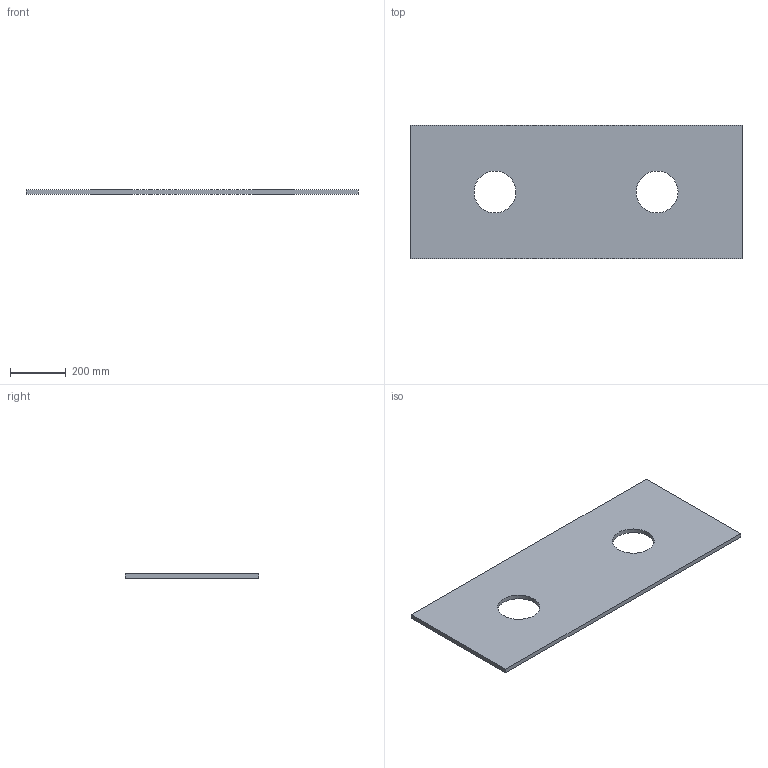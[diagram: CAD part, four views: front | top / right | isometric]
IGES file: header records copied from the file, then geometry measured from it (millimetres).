
Global section: file name: 510028; native system: Autodesk Inventor 2023; preprocessor: unknown; author: JANAN; date: 20241002.131819; units: millimetre
Bounding box: 1188 x 477.5 x 16 mm (x, y, z)
Volume: 8510053.1 mm3; surface area: 1132249.8 mm2
Topology: 1 solids, 1 shells, 8 faces, 18 edges, 12 vertices
Faces by surface type: bspline 8
